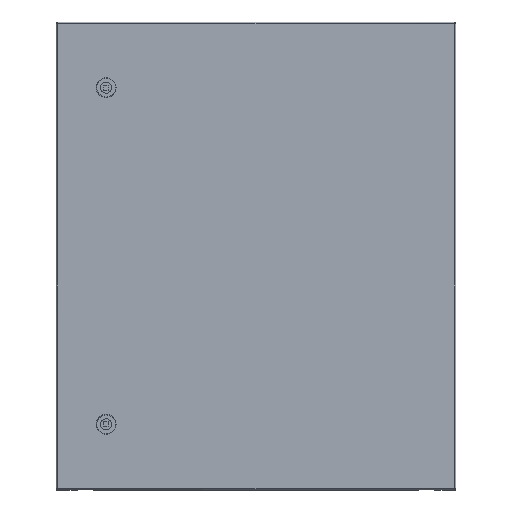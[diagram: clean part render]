
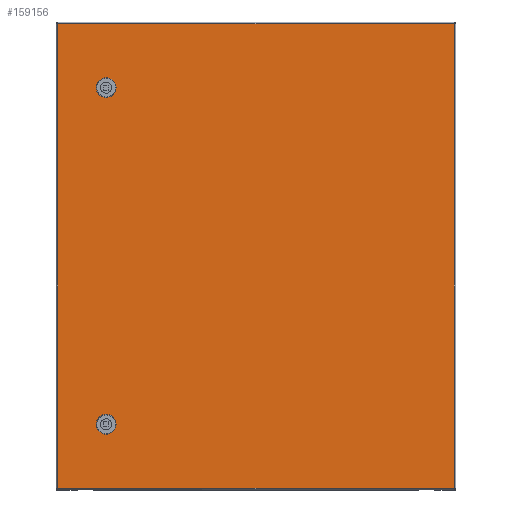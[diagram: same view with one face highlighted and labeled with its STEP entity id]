
A CAD part, top view. The second image highlights one B-rep face of the part: STEP entity #159156.
In plain terms, the highlighted planar face has unit normal (0, 0, 1).
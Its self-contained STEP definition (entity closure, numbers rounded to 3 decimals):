
#158301=CARTESIAN_POINT(' ',(2.8,0.8,0.));
#158306=DIRECTION(' ',(1.,0.,0.));
#158311=VECTOR(' ',#158306,1.);
#158316=LINE('',#158301,#158311);
#158321=CARTESIAN_POINT(' ',(2.8,0.8,0.));
#158322=VERTEX_POINT(' ',#158321);
#158326=CARTESIAN_POINT(' ',(591.2,0.8,0.));
#158327=VERTEX_POINT(' ',#158326);
#158331=EDGE_CURVE(' ',#158322,#158327,#158316,.T.);
#159016=DIRECTION(' ',(-0.,-0.,1.));
#159021=CARTESIAN_POINT(' ',(591.2,0.8,0.));
#159026=DIRECTION(' ',(0.,1.,0.));
#159031=AXIS2_PLACEMENT_3D(' ',#159021,#159016,#159026);
#159036=PLANE('NONE',#159031);
#159041=ORIENTED_EDGE(' ',*,*,#158331,.T.);
#159046=CARTESIAN_POINT(' ',(591.2,690.2,0.));
#159051=DIRECTION(' ',(0.,-1.,0.));
#159056=VECTOR(' ',#159051,1.);
#159061=LINE('',#159046,#159056);
#159066=CARTESIAN_POINT(' ',(591.2,690.2,0.));
#159067=VERTEX_POINT(' ',#159066);
#159071=EDGE_CURVE(' ',#159067,#158327,#159061,.T.);
#159076=ORIENTED_EDGE(' ',*,*,#159071,.F.);
#159081=CARTESIAN_POINT(' ',(591.2,690.2,0.));
#159086=DIRECTION(' ',(-1.,0.,0.));
#159091=VECTOR(' ',#159086,1.);
#159096=LINE('',#159081,#159091);
#159101=CARTESIAN_POINT(' ',(2.8,690.2,0.));
#159102=VERTEX_POINT(' ',#159101);
#159106=EDGE_CURVE(' ',#159067,#159102,#159096,.T.);
#159111=ORIENTED_EDGE(' ',*,*,#159106,.T.);
#159116=CARTESIAN_POINT(' ',(2.8,690.2,0.));
#159121=DIRECTION(' ',(0.,-1.,0.));
#159126=VECTOR(' ',#159121,1.);
#159131=LINE('',#159116,#159126);
#159136=EDGE_CURVE(' ',#159102,#158322,#159131,.T.);
#159141=ORIENTED_EDGE(' ',*,*,#159136,.T.);
#159146=EDGE_LOOP(' ',(#159041,#159076,#159111,#159141));
#159151=FACE_OUTER_BOUND(' ',#159146,.T.);
#159156=ADVANCED_FACE('NONE',(#159151),#159036,.T.);
